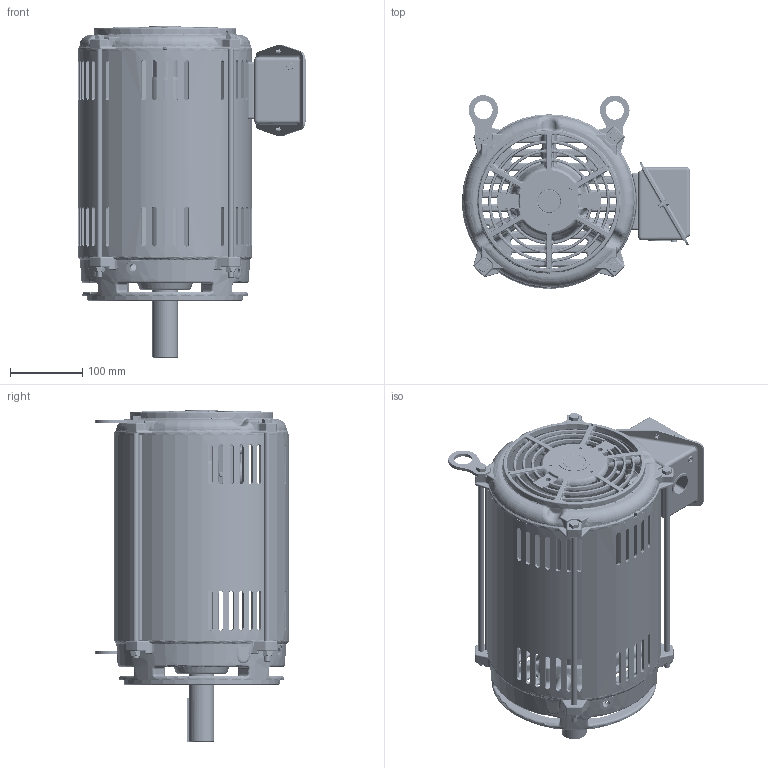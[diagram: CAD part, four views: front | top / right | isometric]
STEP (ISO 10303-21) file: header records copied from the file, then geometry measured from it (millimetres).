
FILE_DESCRIPTION (( 'STEP AP203' ), '1' );
FILE_NAME ('SS621032_RevE.STEP', '2022-05-17T06:14:44', ( '' ), ( '' ), 'SwSTEP 2.0', 'SolidWorks 2021', '' );
FILE_SCHEMA (( 'CONFIG_CONTROL_DESIGN' ));
Length unit declared in the file: inch
Products named in the file (1): SS621032_RevE
Bounding box: 315.58 x 267.37 x 459.37 mm (x, y, z)
Volume: 2725152.8 mm3; surface area: 1014645.3 mm2
Topology: 28 solids, 28 shells, 5243 faces, 13407 edges, 7847 vertices
Faces by surface type: plane 1502, bspline 1312, cylinder 1159, torus 703, cone 399, sphere 168
Entity records: 221990 total; most frequent: CARTESIAN_POINT 108269, ORIENTED_EDGE 26152, DIRECTION 21178, EDGE_CURVE 13076, AXIS2_PLACEMENT_3D 8592, VERTEX_POINT 7835, EDGE_LOOP 5469, ADVANCED_FACE 5243
